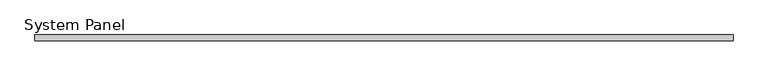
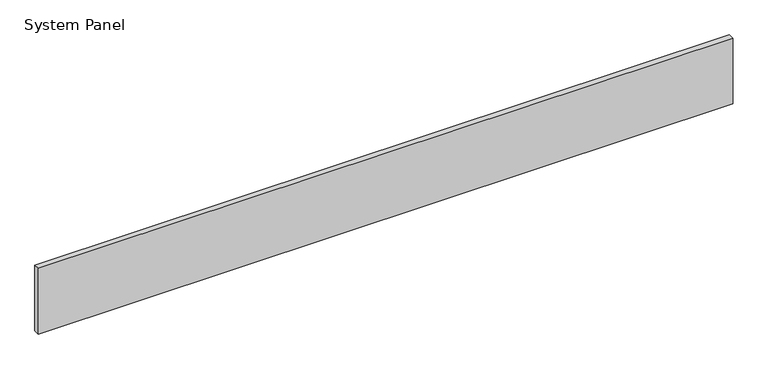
"""IFC4 building model written with IfcOpenShell, lengths in millimetres: plate geometry, System Panel : Equitilt_100mm_Plain_Surfmist."""

from ifc_helpers import new_model, si_unit, origin, origin_with_axes, place, context, project, spatial, polyline, outline, extrude, source, transform, mapped, element, save


def system_panel_39fee353(model_context):
    return source(origin(), model_context, "Body", "SweptSolid", [
        extrude(outline(polyline([(6000.0, 0.0), (-6000.0, 0.0), (-6000.0, 100.0), (6000.0, 100.0), (6000.0, 0.0)])), origin_with_axes(), (0.0, 0.0, 1.0), 1200.0),
    ])


if __name__ == "__main__":
    model = new_model("IFC4")
    model_context = context("Model", 3, world=origin())
    ifc_project = project(units=[si_unit("LENGTHUNIT", "METRE", prefix="MILLI")], contexts=[model_context])
    site = spatial("IfcSite", under=ifc_project)
    building = spatial("IfcBuilding", under=site)
    placement = place(None, origin())
    system_panel_shape = system_panel_39fee353(model_context)
    element("IfcPlate", 1, ObjectType="System Panel : Equitilt_100mm_Plain_Surfmist", at=placement, inside=building, context=model_context, shape_type="MappedRepresentation", body=[
        mapped(system_panel_shape, transform((0.0, 0.0, 0.0), x_axis=(1.0, 0.0, 0.0), y_axis=(0.0, 1.0, 0.0), z_axis=(0.0, 0.0, 1.0))),
    ])
    save(model, "model.ifc")
